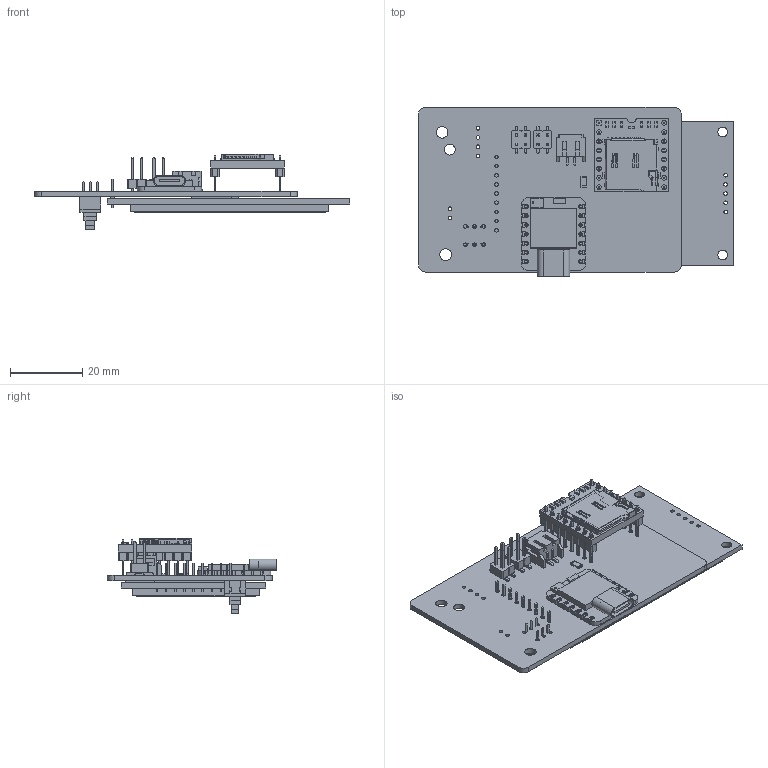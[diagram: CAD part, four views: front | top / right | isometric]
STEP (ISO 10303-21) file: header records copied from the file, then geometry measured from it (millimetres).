
FILE_DESCRIPTION(('KiCad electronic assembly'),'2;1');
FILE_NAME('TV_Driver.step','2025-06-14T16:36:47',('Pcbnew'),('Kicad'), 'Open CASCADE STEP processor 7.8','KiCad to STEP converter','Unknown' );
FILE_SCHEMA(('AUTOMOTIVE_DESIGN { 1 0 10303 214 1 1 1 1 }'));
Length unit declared in the file: millimetre
Products named in the file (34): TV_Driver 1; PinHeader_2x02_P2.54mm_Vertical_SMD; S2B-PH-SM4-TB_LF__SN_; LatchSwitch_5.8x5.8; DFR0299; Seeed_XIAO-nRF52840_Sense; SoC_nRF_Sense; Mic_nRF_Sense; Antenna_nRF_Sense; XIAO_Generic; Board; USB; Contact; Contact Clones; Body007; Body008; Body009; Body010; Body011; Body012; Body013; Body014; Body015; Body016; Body017; Body018; Body019; Resistor-1206; Ceramic; Contacts; Contacts (Mirror #1); Overcoat; CR2013-MI2120; TV_Driver_PCB
Assembly tree (34 placements, depth 5):
  TV_Driver 1
    PinHeader_2x02_P2.54mm_Vertical_SMD  x2
    S2B-PH-SM4-TB_LF__SN_
    LatchSwitch_5.8x5.8
    DFR0299
    Seeed_XIAO-nRF52840_Sense
      SoC_nRF_Sense
      Mic_nRF_Sense
      Antenna_nRF_Sense
      XIAO_Generic
        Board
        USB
        Contact
        Contact Clones
          Body007
          Body008
          Body009
          Body010
          Body011
          Body012
          Body013
          Body014
          Body015
          Body016
          Body017
          Body018
          Body019
    Resistor-1206
      Ceramic
      Contacts
      Contacts (Mirror #1)
      Overcoat
    CR2013-MI2120
    TV_Driver_PCB
Bounding box: 87.31 x 46.98 x 21 mm (x, y, z)
Volume: 15966.5 mm3; surface area: 23789.6 mm2
Topology: 112 solids, 112 shells, 2456 faces, 6303 edges, 4097 vertices
Faces by surface type: plane 2010, cylinder 438, bspline 6, cone 2
Full cylindrical faces by diameter (mm): 0.5 x1, 0.7 x14, 0.8 x28, 1 x42, 2.7 x4, 3 x1, 3.2 x2
Entity records: 75215 total; most frequent: CARTESIAN_POINT 13641, ORIENTED_EDGE 12130, DIRECTION 11697, EDGE_CURVE 6065, LINE 5151, VECTOR 5151, VERTEX_POINT 3949, AXIS2_PLACEMENT_3D 3273
